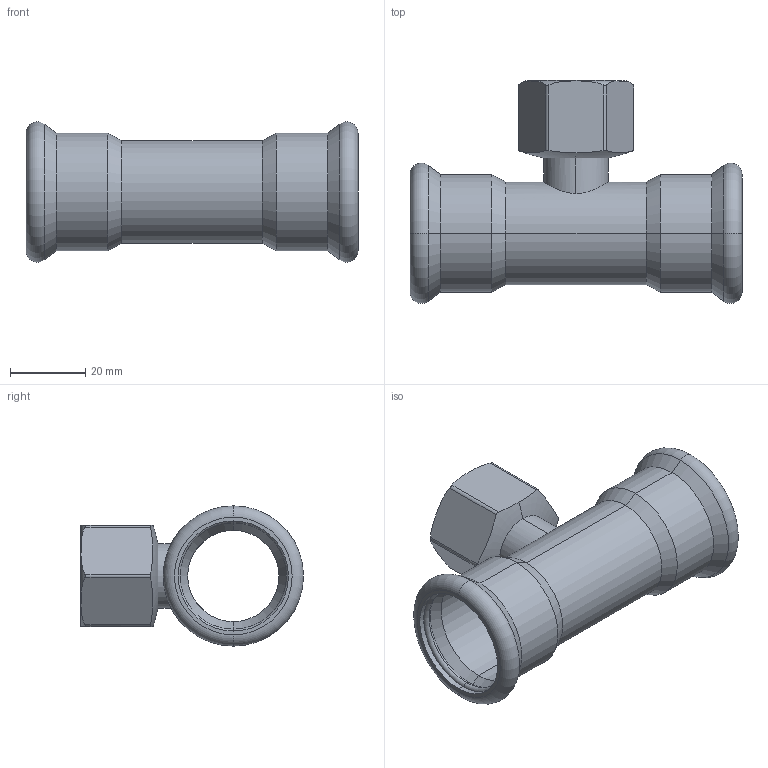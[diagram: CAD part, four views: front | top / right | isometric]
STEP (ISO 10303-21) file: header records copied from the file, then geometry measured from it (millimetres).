
FILE_DESCRIPTION (( 'STEP AP214' ), '1' );
FILE_NAME ('T28200F.STEP', '2025-08-17T14:09:05', ( '' ), ( '' ), 'SwSTEP 2.0', 'SolidWorks 2020', '' );
FILE_SCHEMA (( 'AUTOMOTIVE_DESIGN' ));
Length unit declared in the file: millimetre
Products named in the file (1): T28200F
Bounding box: 88 x 59.1 x 37.2 mm (x, y, z)
Volume: 18909.5 mm3; surface area: 23422.1 mm2
Topology: 3 solids, 3 shells, 104 faces, 249 edges, 150 vertices
Faces by surface type: cylinder 51, torus 20, cone 18, plane 12, bspline 3
Entity records: 6339 total; most frequent: CARTESIAN_POINT 2888, ORIENTED_EDGE 498, DIRECTION 454, EDGE_CURVE 249, AXIS2_PLACEMENT_3D 188, VERTEX_POINT 150, EDGE_LOOP 111, UNCERTAINTY_MEASURE_WITH_UNIT 109
